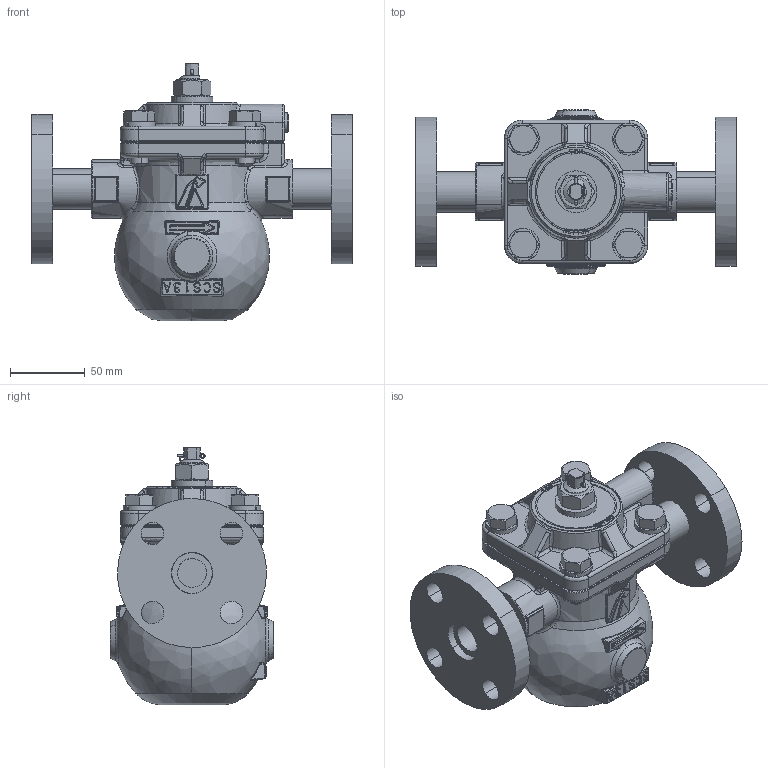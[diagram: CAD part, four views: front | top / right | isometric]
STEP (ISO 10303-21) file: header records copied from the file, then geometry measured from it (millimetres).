
FILE_DESCRIPTION((''),'2;1');
FILE_NAME('','2020-10-13T10:19:42',(''),(''),'','CADfix','');
FILE_SCHEMA(('AUTOMOTIVE_DESIGN { 1 0 10303 214 1 1 1 1 }'));
Length unit declared in the file: millimetre
Products named in the file (15): 　コック 埋め; 本体 20A SW 埋め; ふた 埋め; SOP 10K 20A; CP_SUS＿'_SUS304TP 20AxSch40x45.6; CP_'_JIS B 1180 呼び径六角ボルト'_17166; CP_'_JIS B 1180 呼び径六角ボルト'_17168; SSLW12; テーパプラグMSWTS2; 3D　TSF-10　割りピン; 3D　TSF-10　銘板文字; 3D　TSF-10　六角ナット; 3D　TSF-10　銘板; 3D　TSF-10　カラー; TSF-10SF JIS10K 20A_38
Assembly tree (21 placements, depth 2):
  TSF-10SF JIS10K 20A_38
    　コック 埋め
    本体 20A SW 埋め
    ふた 埋め
    SOP 10K 20A  x2
    CP_SUS＿'_SUS304TP 20AxSch40x45.6  x2
    CP_'_JIS B 1180 呼び径六角ボルト'_17166  x3
    CP_'_JIS B 1180 呼び径六角ボルト'_17168
    SSLW12  x4
    テーパプラグMSWTS2
    3D　TSF-10　割りピン
    3D　TSF-10　銘板文字
    3D　TSF-10　六角ナット
    3D　TSF-10　銘板
    3D　TSF-10　カラー
Bounding box: 215 x 110 x 173 mm (x, y, z)
Volume: 1244577.6 mm3; surface area: 172272.4 mm2
Topology: 21 solids, 21 shells, 1588 faces, 4416 edges, 2853 vertices
Faces by surface type: bspline 1588
Entity records: 72738 total; most frequent: CARTESIAN_POINT 43486, ORIENTED_EDGE 8138, STYLED_ITEM 4886, EDGE_CURVE 4069, VERTEX_POINT 2603, B_SPLINE_CURVE_WITH_KNOTS 1892, QUASI_UNIFORM_CURVE 1860, EDGE_LOOP 1570
